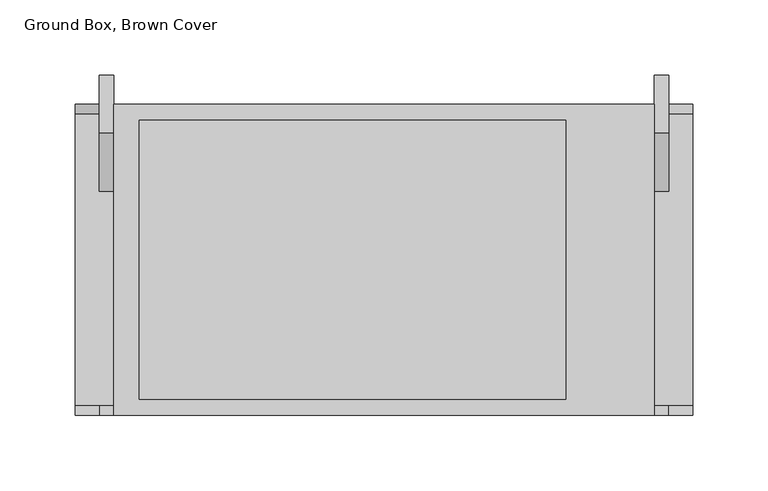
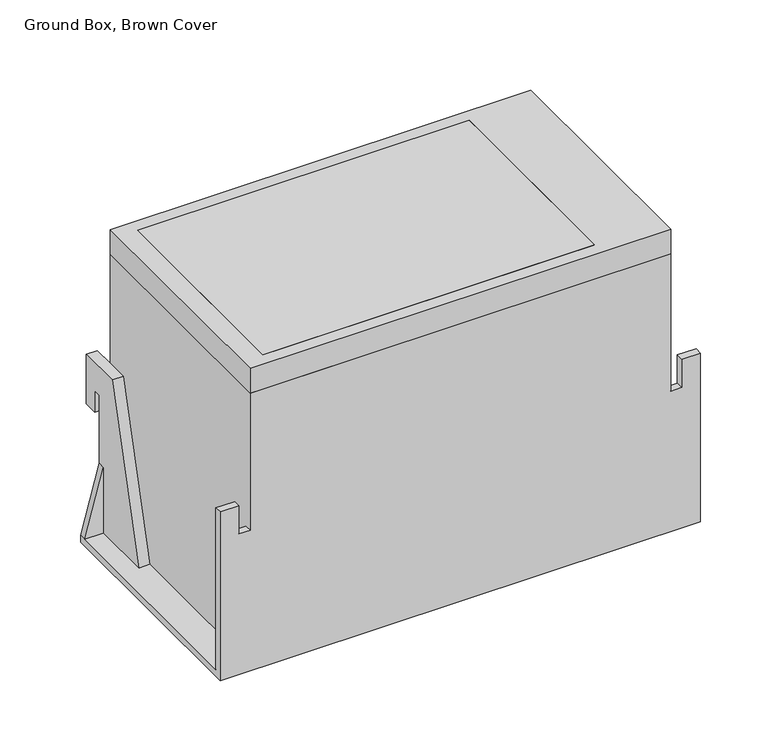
"""IFC4 building model written with IfcOpenShell, lengths in millimetres: proxy geometry, Ground_Box-Outdoor-Wiremold : Ground Box, Brown Cover."""

from ifc_helpers import new_model, si_unit, frame, origin, place, context, project, spatial, polyline, outline, extrude, faceted_brep, source, transform, mapped, element, save


def ground_box_brown_cover_0e2991a0(model_context):
    return source(origin(), model_context, "Body", "SolidModel", [
        extrude(outline(polyline([(120.4595, 92.5195), (120.4595, -92.5195), (-162.3695, -92.5195), (-162.3695, 92.5195), (120.4595, 92.5195)])), frame((0.0, 0.0, -6.35), z_axis=(0.0, 0.0, 1.0), x_axis=(1.0, 0.0, 0.0)), (0.0, 0.0, 1.0), 6.35),
        faceted_brep([(179.3875, 103.1875, 0.0), (-179.3875, 103.1875, 0.0), (-179.3875, -103.1875, 0.0), (179.3875, -103.1875, 0.0), (-162.3695, 92.5195, 0.0), (120.4595, 92.5195, 0.0), (120.4595, -92.5195, 0.0), (-162.3695, -92.5195, 0.0), (179.3875, 103.1875, -22.225), (179.3875, -103.1875, -22.225), (-179.3875, -103.1875, -22.225), (-179.3875, 103.1875, -22.225), (120.4595, 92.5195, -6.35), (-162.3695, 92.5195, -6.35), (-162.3695, -92.5195, -6.35), (120.4595, -92.5195, -6.35)], [[[0, 1, 2, 3], [4, 5, 6, 7]], [[8, 9, 10, 11]], [[1, 0, 8, 11]], [[2, 1, 11, 10]], [[3, 2, 10, 9]], [[0, 3, 9, 8]], [[12, 13, 14, 15]], [[13, 12, 5, 4]], [[14, 13, 4, 7]], [[15, 14, 7, 6]], [[12, 15, 6, 5]]]),
        extrude(outline(polyline([(36.7665, 31.75), (36.7665, -31.75), (-71.9455, -31.75), (-71.9455, 31.75), (36.7665, 31.75)])), frame((0.0, 0.0, -60.325), z_axis=(0.0, 0.0, 1.0), x_axis=(1.0, 0.0, 0.0)), (0.0, 0.0, 1.0), 6.35),
        extrude(outline(polyline([(54.8005, 85.4075), (54.8005, -85.4075), (-136.9695, -85.4075), (-136.9695, 85.4075), (54.8005, 85.4075)]), holes=[polyline([(48.4505, 79.0575), (-130.6195, 79.0575), (-130.6195, -79.0575), (48.4505, -79.0575), (48.4505, 79.0575)])]), frame((0.0, 0.0, -168.275), z_axis=(0.0, 0.0, 1.0), x_axis=(1.0, 0.0, 0.0)), (0.0, 0.0, 1.0), 114.3),
        extrude(outline(polyline([(173.0375, 96.8375), (173.0375, -96.8375), (-173.0375, -96.8375), (-173.0375, 96.8375), (173.0375, 96.8375)])), frame((0.0, 0.0, -53.975), z_axis=(0.0, 0.0, 1.0), x_axis=(1.0, 0.0, 0.0)), (0.0, 0.0, 1.0), 31.75),
        faceted_brep([(-204.7875, -96.8375, -266.7), (-179.3875, -96.8375, -266.7), (-179.3875, 45.0035204, -266.7), (-188.9125, 45.0035204, -266.7), (-188.9125, 96.8375, -266.7), (-204.7875, 96.8375, -266.7), (179.3875, -96.8375, -266.7), (204.7875, -96.8375, -266.7), (204.7875, 96.8375, -266.7), (188.9125, 96.8375, -266.7), (188.9125, 45.0035204, -266.7), (179.3875, 45.0035204, -266.7), (204.7875, 103.1875, -273.05), (204.7875, 103.1875, -266.7), (204.7875, -96.8375, -120.65), (204.7875, -103.1875, -120.65), (204.7875, -103.1875, -273.05), (-204.7875, 103.1875, -266.7), (-204.7875, 103.1875, -273.05), (-204.7875, -103.1875, -273.05), (-204.7875, -103.1875, -120.65), (-204.7875, -96.8375, -120.65), (179.3875, -96.8375, -146.05), (188.9125, -96.8375, -146.05), (188.9125, -96.8375, -120.65), (-188.9125, -96.8375, -120.65), (-188.9125, -96.8375, -146.05), (-179.3875, -96.8375, -146.05), (188.9125, -103.1875, -120.65), (188.9125, -103.1875, -146.05), (179.3875, -103.1875, -146.05), (-188.9125, -103.1875, -146.05), (-179.3875, -103.1875, -146.05), (-188.9125, -103.1875, -120.65), (-188.9125, 96.8375, -207.4536934), (188.9125, 96.8375, -207.4536934), (188.9125, 103.1875, -207.4536934), (-188.9125, 103.1875, -207.4536934), (188.9125, 109.5375, -146.05), (188.9125, 109.5375, -165.1), (188.9125, 122.2375, -165.1), (188.9125, 122.2375, -120.65), (188.9125, 84.1375, -120.65), (188.9125, 103.1875, -146.05), (179.3875, 109.5375, -146.05), (179.3875, 103.1875, -146.05), (179.3875, 103.1875, -120.65), (179.3875, 122.2375, -120.65), (179.3875, 122.2375, -165.1), (179.3875, 109.5375, -165.1), (179.3875, 84.1375, -120.65), (-179.3875, 109.5375, -146.05), (-179.3875, 109.5375, -165.1), (-179.3875, 122.2375, -165.1), (-179.3875, 122.2375, -120.65), (-179.3875, 103.1875, -120.65), (-179.3875, 103.1875, -146.05), (-188.9125, 109.5375, -146.05), (-188.9125, 103.1875, -146.05), (-188.9125, 84.1375, -120.65), (-188.9125, 122.2375, -120.65), (-188.9125, 122.2375, -165.1), (-188.9125, 109.5375, -165.1), (-179.3875, 84.1375, -120.65), (179.3875, 103.1875, -22.225), (-179.3875, 103.1875, -22.225), (-179.3875, -103.1875, -22.225), (179.3875, -103.1875, -22.225), (-176.2125, 100.0125, -22.225), (176.2125, 100.0125, -22.225), (176.2125, -100.0125, -22.225), (-176.2125, -100.0125, -22.225), (176.2125, 100.0125, -266.7), (-176.2125, 100.0125, -266.7), (-176.2125, -100.0125, -266.7), (176.2125, -100.0125, -266.7)], [[[0, 1, 2, 3, 4, 5]], [[6, 7, 8, 9, 10, 11]], [[12, 13, 8, 7, 14, 15, 16]], [[17, 18, 19, 20, 21, 0, 5]], [[22, 23, 24, 14, 7, 6]], [[21, 25, 26, 27, 1, 0]], [[28, 15, 14, 24]], [[29, 28, 24, 23]], [[30, 29, 23, 22]], [[31, 32, 27, 26]], [[33, 31, 26, 25]], [[20, 33, 25, 21]], [[5, 4, 34]], [[9, 8, 35]], [[8, 13, 36, 35]], [[17, 5, 34, 37]], [[38, 39, 40, 41, 42, 10, 9, 35, 36, 43]], [[44, 45, 46, 47, 48, 49]], [[39, 38, 44, 49]], [[40, 39, 49, 48]], [[41, 40, 48, 47]], [[42, 41, 47, 46, 50]], [[10, 42, 50, 11]], [[38, 43, 45, 44]], [[51, 52, 53, 54, 55, 56]], [[57, 58, 37, 34, 4, 3, 59, 60, 61, 62]], [[52, 51, 57, 62]], [[53, 52, 62, 61]], [[54, 53, 61, 60]], [[60, 59, 63, 55, 54]], [[59, 3, 2, 63]], [[51, 56, 58, 57]], [[64, 65, 66, 67], [68, 69, 70, 71]], [[18, 12, 16, 19]], [[65, 64, 46, 45, 43, 36, 13, 12, 18, 17, 37, 58, 56, 55]], [[66, 65, 55, 63, 2, 1, 27, 32]], [[67, 66, 32, 31, 33, 20, 19, 16, 15, 28, 29, 30]], [[64, 67, 30, 22, 6, 11, 50, 46]], [[72, 73, 74, 75]], [[73, 72, 69, 68]], [[74, 73, 68, 71]], [[75, 74, 71, 70]], [[72, 75, 70, 69]]]),
    ])


if __name__ == "__main__":
    model = new_model("IFC4")
    model_context = context("Model", 3, world=origin())
    ifc_project = project(units=[si_unit("LENGTHUNIT", "METRE", prefix="MILLI")], contexts=[model_context])
    site = spatial("IfcSite", under=ifc_project)
    building = spatial("IfcBuilding", under=site)
    placement = place(None, origin())
    ground_box_brown_cover_shape = ground_box_brown_cover_0e2991a0(model_context)
    element("IfcBuildingElementProxy", 1, Name="Ground_Box-Outdoor-Wiremold : Ground Box, Brown Cover", ObjectType="Ground_Box-Outdoor-Wiremold : Ground Box, Brown Cover", at=placement, inside=building, context=model_context, shape_type="MappedRepresentation", body=[
        mapped(ground_box_brown_cover_shape, transform((0.0, 0.0, 0.0), x_axis=(1.0, 0.0, 0.0), y_axis=(0.0, 1.0, 0.0), z_axis=(0.0, 0.0, 1.0))),
    ])
    save(model, "model.ifc")
